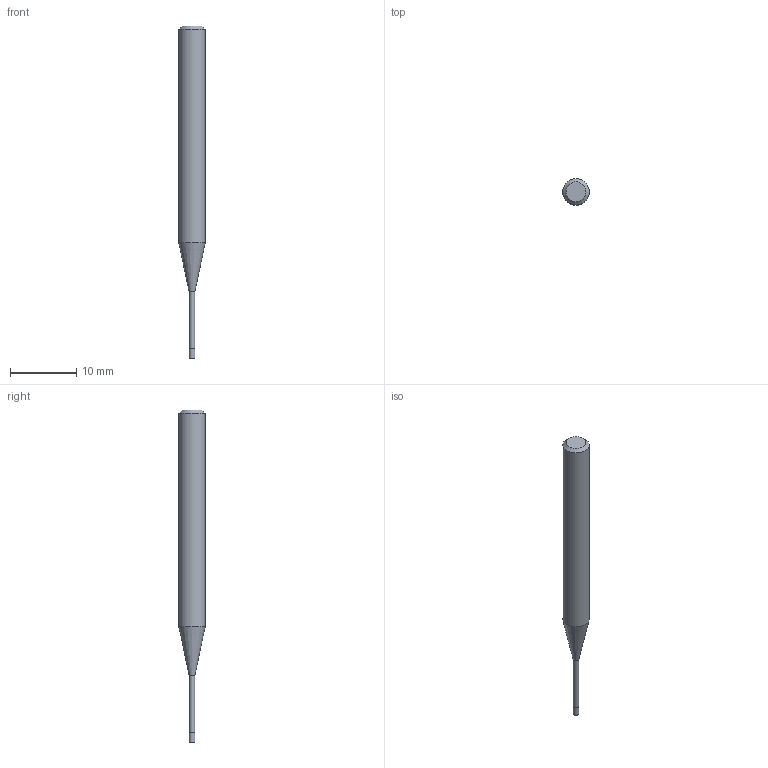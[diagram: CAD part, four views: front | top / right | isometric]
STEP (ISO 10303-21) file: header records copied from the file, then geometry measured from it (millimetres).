
FILE_DESCRIPTION((''),'2;1');
FILE_NAME('C:\Users\nsx150\AppData\Local\Temp\Mastercam 2021\17T8Q8S9EB\TEMP.step','2021-04-21T14:25:36',(''),(''),'STEP Write','Mastercam 2021 ... CNC Software, Inc.','');
FILE_SCHEMA(('AUTOMOTIVE_DESIGN'));
Length unit declared in the file: millimetre
Products named in the file (1): None
Bounding box: 4 x 4 x 50 mm (x, y, z)
Volume: 453.3 mm3; surface area: 505.1 mm2
Topology: 2 solids, 2 shells, 9 faces, 12 edges, 7 vertices
Faces by surface type: plane 4, cylinder 3, cone 2
Full cylindrical faces by diameter (mm): 0.86 x1, 0.9 x1, 4 x1
Entity records: 211 total; most frequent: DIRECTION 36, CARTESIAN_POINT 25, AXIS2_PLACEMENT_3D 18, ORIENTED_EDGE 14, EDGE_LOOP 14, STYLED_ITEM 12, ADVANCED_FACE 9, FACE_BOUND 8
